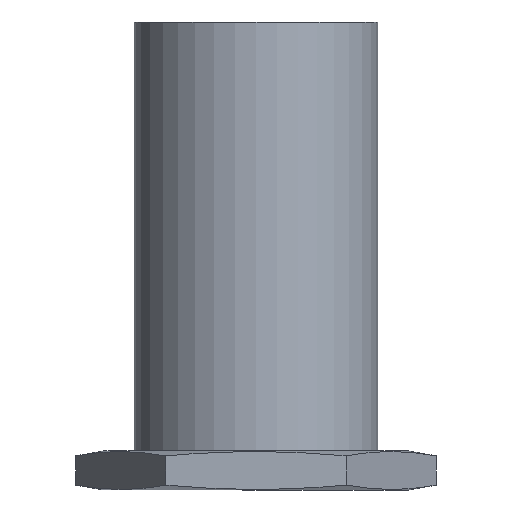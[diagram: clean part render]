
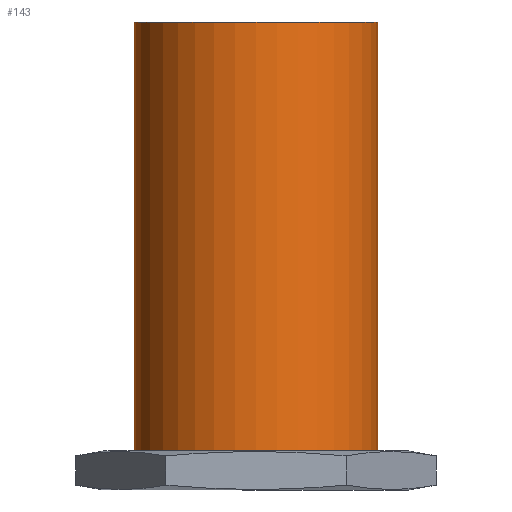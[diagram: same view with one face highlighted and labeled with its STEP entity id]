
A CAD part, front view. The second image highlights one B-rep face of the part: STEP entity #143.
In plain terms, the highlighted cylindrical face has radius 12.5 mm (diameter 25 mm), a partial arc.
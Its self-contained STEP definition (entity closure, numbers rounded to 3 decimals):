
#14 = CIRCLE ( 'NONE', #166, 12.5 ) ;
#61 = CARTESIAN_POINT ( 'NONE',  ( -12.5, 0., 48. ) ) ;
#143 = ADVANCED_FACE ( 'NONE', ( #290 ), #1473, .T. ) ;
#166 = AXIS2_PLACEMENT_3D ( 'NONE', #1675, #608, #322 ) ;
#191 = VERTEX_POINT ( 'NONE', #1284 ) ;
#290 = FACE_OUTER_BOUND ( 'NONE', #303, .T. ) ;
#299 = DIRECTION ( 'NONE',  ( 0., 0., -1. ) ) ;
#303 = EDGE_LOOP ( 'NONE', ( #826, #1217, #1460, #722 ) ) ;
#322 = DIRECTION ( 'NONE',  ( 1., 0., 0. ) ) ;
#331 = EDGE_CURVE ( 'NONE', #1782, #776, #1418, .T. ) ;
#407 = VERTEX_POINT ( 'NONE', #1758 ) ;
#569 = VECTOR ( 'NONE', #987, 1000. ) ;
#608 = DIRECTION ( 'NONE',  ( 0., 0., 1. ) ) ;
#622 = DIRECTION ( 'NONE',  ( 0., 0., 1. ) ) ;
#693 = CARTESIAN_POINT ( 'NONE',  ( -12.5, 0., 48. ) ) ;
#722 = ORIENTED_EDGE ( 'NONE', *, *, #1674, .T. ) ;
#730 = CARTESIAN_POINT ( 'NONE',  ( 0., 0., 48. ) ) ;
#776 = VERTEX_POINT ( 'NONE', #1111 ) ;
#826 = ORIENTED_EDGE ( 'NONE', *, *, #1933, .F. ) ;
#858 = EDGE_CURVE ( 'NONE', #1782, #191, #1439, .T. ) ;
#940 = AXIS2_PLACEMENT_3D ( 'NONE', #730, #1765, #1022 ) ;
#987 = DIRECTION ( 'NONE',  ( 0., 0., -1. ) ) ;
#1005 = VECTOR ( 'NONE', #299, 1000. ) ;
#1010 = CARTESIAN_POINT ( 'NONE',  ( 12.5, 0., 48. ) ) ;
#1022 = DIRECTION ( 'NONE',  ( -1., 0., 0. ) ) ;
#1076 = AXIS2_PLACEMENT_3D ( 'NONE', #1513, #622, #1222 ) ;
#1111 = CARTESIAN_POINT ( 'NONE',  ( 12.5, 0., 48. ) ) ;
#1217 = ORIENTED_EDGE ( 'NONE', *, *, #331, .F. ) ;
#1222 = DIRECTION ( 'NONE',  ( 1., 0., 0. ) ) ;
#1284 = CARTESIAN_POINT ( 'NONE',  ( -12.5, 0., 4. ) ) ;
#1418 = CIRCLE ( 'NONE', #1076, 12.5 ) ;
#1439 = LINE ( 'NONE', #693, #1005 ) ;
#1460 = ORIENTED_EDGE ( 'NONE', *, *, #858, .T. ) ;
#1473 = CYLINDRICAL_SURFACE ( 'NONE', #940, 12.5 ) ;
#1513 = CARTESIAN_POINT ( 'NONE',  ( 0., 0., 48. ) ) ;
#1674 = EDGE_CURVE ( 'NONE', #191, #407, #14, .T. ) ;
#1675 = CARTESIAN_POINT ( 'NONE',  ( 0., 0., 4. ) ) ;
#1742 = LINE ( 'NONE', #1010, #569 ) ;
#1758 = CARTESIAN_POINT ( 'NONE',  ( 12.5, 0., 4. ) ) ;
#1765 = DIRECTION ( 'NONE',  ( 0., 0., -1. ) ) ;
#1782 = VERTEX_POINT ( 'NONE', #61 ) ;
#1933 = EDGE_CURVE ( 'NONE', #776, #407, #1742, .T. ) ;
